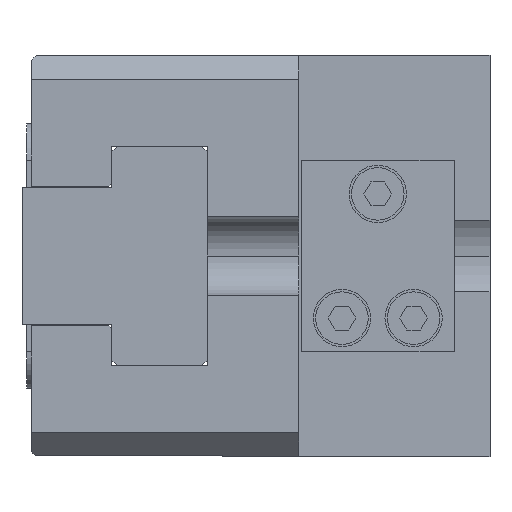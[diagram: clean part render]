
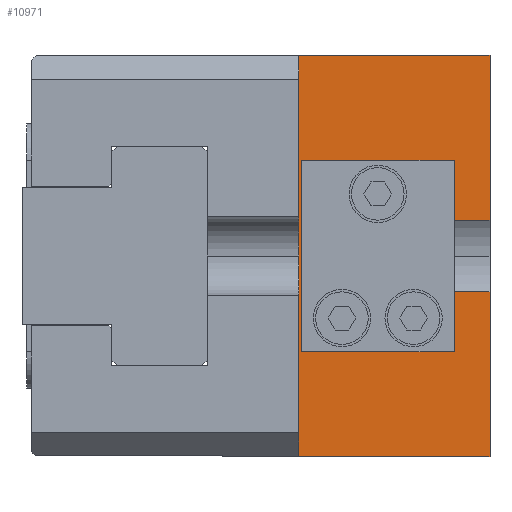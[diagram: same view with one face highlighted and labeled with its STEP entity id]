
A CAD part, left-side view. The second image highlights one B-rep face of the part: STEP entity #10971.
In plain terms, the highlighted planar face has unit normal (-1, 0, 0).
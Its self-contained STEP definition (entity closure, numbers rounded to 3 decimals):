
#139 = VERTEX_POINT ( 'NONE', #9880 ) ;
#397 = VERTEX_POINT ( 'NONE', #9153 ) ;
#437 = EDGE_CURVE ( 'NONE', #1327, #588, #2528, .T. ) ;
#518 = CARTESIAN_POINT ( 'NONE',  ( -31.5, 8., -6.5 ) ) ;
#554 = DIRECTION ( 'NONE',  ( 0., 1., 0. ) ) ;
#588 = VERTEX_POINT ( 'NONE', #16687 ) ;
#959 = EDGE_CURVE ( 'NONE', #16924, #1333, #10540, .T. ) ;
#1259 = CARTESIAN_POINT ( 'NONE',  ( -31.5, 3.75, 3.75 ) ) ;
#1284 = AXIS2_PLACEMENT_3D ( 'NONE', #6715, #5424, #9456 ) ;
#1327 = VERTEX_POINT ( 'NONE', #4840 ) ;
#1333 = VERTEX_POINT ( 'NONE', #15801 ) ;
#1348 = ORIENTED_EDGE ( 'NONE', *, *, #8918, .F. ) ;
#1448 = DIRECTION ( 'NONE',  ( 0., 0., 1. ) ) ;
#1607 = FACE_OUTER_BOUND ( 'NONE', #9877, .T. ) ;
#1622 = CARTESIAN_POINT ( 'NONE',  ( -31.5, 0., -3.75 ) ) ;
#1678 = LINE ( 'NONE', #15103, #16689 ) ;
#1754 = DIRECTION ( 'NONE',  ( 1., 0., 0. ) ) ;
#1786 = AXIS2_PLACEMENT_3D ( 'NONE', #5189, #14734, #3831 ) ;
#1806 = CARTESIAN_POINT ( 'NONE',  ( -31.5, 0., 21. ) ) ;
#2142 = DIRECTION ( 'NONE',  ( 0., 0., -1. ) ) ;
#2375 = ORIENTED_EDGE ( 'NONE', *, *, #4735, .T. ) ;
#2528 = CIRCLE ( 'NONE', #1284, 1.229 ) ;
#3039 = CARTESIAN_POINT ( 'NONE',  ( -31.5, 0., 21. ) ) ;
#3123 = DIRECTION ( 'NONE',  ( 0., 1., 0. ) ) ;
#3406 = EDGE_CURVE ( 'NONE', #1333, #16924, #10894, .T. ) ;
#3831 = DIRECTION ( 'NONE',  ( 0., 0., 1. ) ) ;
#4305 = CARTESIAN_POINT ( 'NONE',  ( -31.5, 8., -6.5 ) ) ;
#4326 = CARTESIAN_POINT ( 'NONE',  ( -31.5, 3.75, -3.75 ) ) ;
#4591 = DIRECTION ( 'NONE',  ( 0., 0., -1. ) ) ;
#4597 = FACE_BOUND ( 'NONE', #14629, .T. ) ;
#4735 = EDGE_CURVE ( 'NONE', #397, #139, #15066, .T. ) ;
#4840 = CARTESIAN_POINT ( 'NONE',  ( -31.5, 15.5, -5.271 ) ) ;
#5016 = CIRCLE ( 'NONE', #1786, 1.229 ) ;
#5150 = ORIENTED_EDGE ( 'NONE', *, *, #7731, .F. ) ;
#5189 = CARTESIAN_POINT ( 'NONE',  ( -31.5, 15.5, -6.5 ) ) ;
#5207 = LINE ( 'NONE', #15474, #16827 ) ;
#5424 = DIRECTION ( 'NONE',  ( 1., 0., 0. ) ) ;
#6012 = CARTESIAN_POINT ( 'NONE',  ( -31.5, 0., 3.75 ) ) ;
#6338 = VERTEX_POINT ( 'NONE', #6012 ) ;
#6715 = CARTESIAN_POINT ( 'NONE',  ( -31.5, 15.5, -6.5 ) ) ;
#6932 = DIRECTION ( 'NONE',  ( 1., 0., 0. ) ) ;
#6947 = VERTEX_POINT ( 'NONE', #10014 ) ;
#6972 = ORIENTED_EDGE ( 'NONE', *, *, #8308, .T. ) ;
#7196 = DIRECTION ( 'NONE',  ( 0., 0., 1. ) ) ;
#7348 = CARTESIAN_POINT ( 'NONE',  ( -31.5, 8., -7.73 ) ) ;
#7634 = EDGE_CURVE ( 'NONE', #11001, #8689, #7990, .T. ) ;
#7731 = EDGE_CURVE ( 'NONE', #11001, #14438, #14299, .T. ) ;
#7990 = LINE ( 'NONE', #8782, #13482 ) ;
#8308 = EDGE_CURVE ( 'NONE', #139, #6947, #5207, .T. ) ;
#8429 = EDGE_CURVE ( 'NONE', #11452, #6338, #10957, .T. ) ;
#8632 = DIRECTION ( 'NONE',  ( 0., 0., -1. ) ) ;
#8689 = VERTEX_POINT ( 'NONE', #4326 ) ;
#8782 = CARTESIAN_POINT ( 'NONE',  ( -31.5, 3.75, -3.75 ) ) ;
#8918 = EDGE_CURVE ( 'NONE', #14438, #6947, #9352, .T. ) ;
#9153 = CARTESIAN_POINT ( 'NONE',  ( -31.5, 0., 21. ) ) ;
#9339 = ORIENTED_EDGE ( 'NONE', *, *, #11251, .T. ) ;
#9352 = LINE ( 'NONE', #12956, #11649 ) ;
#9456 = DIRECTION ( 'NONE',  ( 0., 0., 1. ) ) ;
#9473 = VECTOR ( 'NONE', #17226, 1000. ) ;
#9765 = PLANE ( 'NONE',  #17179 ) ;
#9813 = DIRECTION ( 'NONE',  ( 0., 0., -1. ) ) ;
#9857 = ORIENTED_EDGE ( 'NONE', *, *, #437, .T. ) ;
#9877 = EDGE_LOOP ( 'NONE', ( #5150, #13584, #12780, #16058, #11495, #2375, #6972, #1348 ) ) ;
#9880 = CARTESIAN_POINT ( 'NONE',  ( -31.5, 20., 21. ) ) ;
#10014 = CARTESIAN_POINT ( 'NONE',  ( -31.5, 20., -21. ) ) ;
#10045 = DIRECTION ( 'NONE',  ( 0., 1., 0. ) ) ;
#10088 = CARTESIAN_POINT ( 'NONE',  ( -31.5, 0., 21. ) ) ;
#10540 = CIRCLE ( 'NONE', #15121, 1.229 ) ;
#10894 = CIRCLE ( 'NONE', #15411, 1.229 ) ;
#10957 = LINE ( 'NONE', #15864, #9473 ) ;
#10971 = ADVANCED_FACE ( 'NONE', ( #1607, #12392, #4597 ), #9765, .T. ) ;
#11001 = VERTEX_POINT ( 'NONE', #1622 ) ;
#11251 = EDGE_CURVE ( 'NONE', #588, #1327, #5016, .T. ) ;
#11452 = VERTEX_POINT ( 'NONE', #1259 ) ;
#11495 = ORIENTED_EDGE ( 'NONE', *, *, #14078, .F. ) ;
#11649 = VECTOR ( 'NONE', #10045, 1000. ) ;
#12330 = DIRECTION ( 'NONE',  ( -1., 0., 0. ) ) ;
#12392 = FACE_BOUND ( 'NONE', #14651, .T. ) ;
#12725 = LINE ( 'NONE', #1806, #16329 ) ;
#12780 = ORIENTED_EDGE ( 'NONE', *, *, #16823, .F. ) ;
#12956 = CARTESIAN_POINT ( 'NONE',  ( -31.5, 0., -21. ) ) ;
#13236 = VECTOR ( 'NONE', #2142, 1000. ) ;
#13482 = VECTOR ( 'NONE', #3123, 1000. ) ;
#13584 = ORIENTED_EDGE ( 'NONE', *, *, #7634, .T. ) ;
#14078 = EDGE_CURVE ( 'NONE', #397, #6338, #12725, .T. ) ;
#14299 = LINE ( 'NONE', #15541, #13236 ) ;
#14438 = VERTEX_POINT ( 'NONE', #14962 ) ;
#14629 = EDGE_LOOP ( 'NONE', ( #16914, #15475 ) ) ;
#14638 = VECTOR ( 'NONE', #554, 1000. ) ;
#14651 = EDGE_LOOP ( 'NONE', ( #9857, #9339 ) ) ;
#14734 = DIRECTION ( 'NONE',  ( 1., 0., 0. ) ) ;
#14962 = CARTESIAN_POINT ( 'NONE',  ( -31.5, 0., -21. ) ) ;
#15066 = LINE ( 'NONE', #10088, #14638 ) ;
#15091 = DIRECTION ( 'NONE',  ( 0., 0., 1. ) ) ;
#15103 = CARTESIAN_POINT ( 'NONE',  ( -31.5, 3.75, 0. ) ) ;
#15121 = AXIS2_PLACEMENT_3D ( 'NONE', #4305, #6932, #15091 ) ;
#15411 = AXIS2_PLACEMENT_3D ( 'NONE', #518, #1754, #7196 ) ;
#15474 = CARTESIAN_POINT ( 'NONE',  ( -31.5, 20., 21. ) ) ;
#15475 = ORIENTED_EDGE ( 'NONE', *, *, #959, .T. ) ;
#15541 = CARTESIAN_POINT ( 'NONE',  ( -31.5, 0., 21. ) ) ;
#15801 = CARTESIAN_POINT ( 'NONE',  ( -31.5, 8., -5.271 ) ) ;
#15864 = CARTESIAN_POINT ( 'NONE',  ( -31.5, 3.75, 3.75 ) ) ;
#16058 = ORIENTED_EDGE ( 'NONE', *, *, #8429, .T. ) ;
#16329 = VECTOR ( 'NONE', #4591, 1000. ) ;
#16687 = CARTESIAN_POINT ( 'NONE',  ( -31.5, 15.5, -7.73 ) ) ;
#16689 = VECTOR ( 'NONE', #9813, 1000. ) ;
#16823 = EDGE_CURVE ( 'NONE', #11452, #8689, #1678, .T. ) ;
#16827 = VECTOR ( 'NONE', #8632, 1000. ) ;
#16914 = ORIENTED_EDGE ( 'NONE', *, *, #3406, .T. ) ;
#16924 = VERTEX_POINT ( 'NONE', #7348 ) ;
#17179 = AXIS2_PLACEMENT_3D ( 'NONE', #3039, #12330, #1448 ) ;
#17226 = DIRECTION ( 'NONE',  ( 0., -1., 0. ) ) ;
